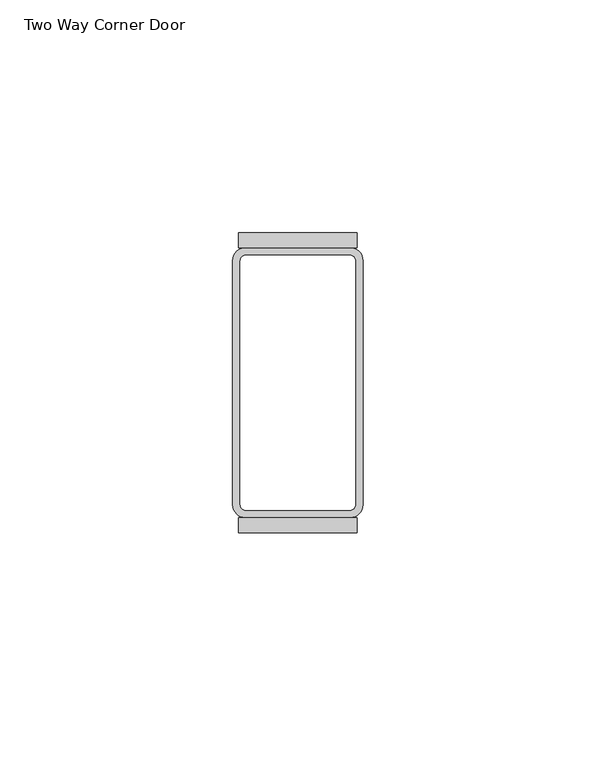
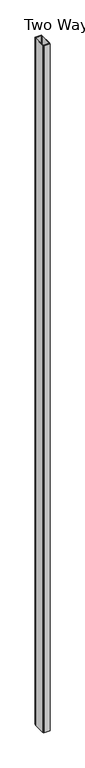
"""IFC4 building model written with IfcOpenShell, lengths in millimetres: proxy geometry, Connection-Corner-Teknion-OptosLP-Two_Way_FZCA1 : Two Way Corner Door."""

from ifc_helpers import new_model, si_unit, frame, origin, origin_with_axes, place, context, project, spatial, polyline, circle_curve, outline, extrude, source, transform, mapped, element, save
from ifc_brep_helpers import plane_surface, cylinder_surface, revolved_surface, advanced_brep


def two_way_corner_door_7322761b(model_context):
    return source(origin(), model_context, "Body", "SolidModel", [
        extrude(outline(polyline([(12.7046009, 28.9941), (-12.6953999, 28.9941), (-12.6953999, 32.1690992), (12.7046009, 32.1690992), (12.7046009, 28.9941)])), origin_with_axes(), (0.0, 0.0, 1.0), 3048.0),
        extrude(outline(polyline([(12.7046009, -28.9941), (12.7046009, -32.1945002), (-12.6953999, -32.1945002), (-12.6953999, -28.9941), (12.7046009, -28.9941)])), origin_with_axes(), (0.0, 0.0, 1.0), 3048.0),
        advanced_brep(
        [(11.2013993, 28.9941, 3048.0), (-11.2013993, 28.9941, 3048.0), (-13.9954, 26.2000993, 3048.0), (-13.9954, -26.2000993, 3048.0), (-11.2013993, -28.9941, 3048.0), (11.2013993, -28.9941, 3048.0), (13.9954, -26.2000993, 3048.0), (14.004601, 26.2001004, 3048.0), (11.2013993, 27.3685, 3048.0), (12.3698, 26.2000993, 3048.0), (12.379001, -26.2000993, 3048.0), (11.2013993, -27.3685, 3048.0), (-11.2013993, -27.3685, 3048.0), (-12.3698, -26.2000993, 3048.0), (-12.3698, 26.2000993, 3048.0), (-11.2013993, 27.3685, 3048.0), (11.2013993, 28.9941, 0.0), (13.9954, 26.2000993, 0.0), (14.004601, -26.2000993, 0.0), (11.2013993, -28.9941, 0.0), (-11.2013993, -28.9941, 0.0), (-13.9954, -26.2000993, 0.0), (-13.9954, 26.2000993, 0.0), (-11.2013993, 28.9941, 0.0), (11.2013993, 27.3685, 0.0), (-11.2013993, 27.3685, 0.0), (-12.3698, 26.2000993, 0.0), (-12.3698, -26.2000993, 0.0), (-11.2013993, -27.3685, 0.0), (11.2013993, -27.3685, 0.0), (12.3698, -26.2000993, 0.0), (12.379001, 26.2001004, 0.0)],
        [
            (0, 1),
            (1, 2, circle_curve(frame((-11.2013993, 26.2000993, 3048.0), z_axis=(0.0, 0.0, 1.0), x_axis=(0.0, -1.0, 0.0)), 2.7940007)),
            (2, 3),
            (3, 4, circle_curve(frame((-11.2013993, -26.2000993, 3048.0), z_axis=(0.0, 0.0, 1.0), x_axis=(0.0, -1.0, 0.0)), 2.7940007)),
            (4, 5),
            (5, 6, circle_curve(frame((11.2013993, -26.2000993, 3048.0), z_axis=(0.0, 0.0, 1.0), x_axis=(0.0, -1.0, 0.0)), 2.7940007)),
            (6, 7),
            (7, 0, circle_curve(frame((11.2013993, 26.2000993, 3048.0), z_axis=(0.0, 0.0, 1.0), x_axis=(0.0, -1.0, 0.0)), 2.7940007)),
            (8, 9, circle_curve(frame((11.2013993, 26.2000993, 3048.0), z_axis=(0.0, 0.0, -1.0), x_axis=(0.0, -1.0, 0.0)), 1.1684007)),
            (9, 10),
            (10, 11, circle_curve(frame((11.2013993, -26.2000993, 3048.0), z_axis=(0.0, 0.0, -1.0), x_axis=(0.0, -1.0, 0.0)), 1.1684007)),
            (11, 12),
            (12, 13, circle_curve(frame((-11.2013993, -26.2000993, 3048.0), z_axis=(0.0, 0.0, -1.0), x_axis=(0.0, -1.0, 0.0)), 1.1684007)),
            (13, 14),
            (14, 15, circle_curve(frame((-11.2013993, 26.2000993, 3048.0), z_axis=(0.0, 0.0, -1.0), x_axis=(0.0, -1.0, 0.0)), 1.1684007)),
            (15, 8),
            (16, 17, circle_curve(frame((11.2013993, 26.2000993, 0.0), z_axis=(0.0, 0.0, -1.0), x_axis=(0.0, -1.0, 0.0)), 2.7940007)),
            (17, 18),
            (18, 19, circle_curve(frame((11.2013993, -26.2000993, 0.0), z_axis=(0.0, 0.0, -1.0), x_axis=(0.0, -1.0, 0.0)), 2.7940007)),
            (19, 20),
            (20, 21, circle_curve(frame((-11.2013993, -26.2000993, 0.0), z_axis=(0.0, 0.0, -1.0), x_axis=(0.0, -1.0, 0.0)), 2.7940007)),
            (21, 22),
            (22, 23, circle_curve(frame((-11.2013993, 26.2000993, 0.0), z_axis=(0.0, 0.0, -1.0), x_axis=(0.0, -1.0, 0.0)), 2.7940007)),
            (23, 16),
            (24, 25),
            (25, 26, circle_curve(frame((-11.2013993, 26.2000993, 0.0), z_axis=(0.0, 0.0, 1.0), x_axis=(0.0, -1.0, 0.0)), 1.1684007)),
            (26, 27),
            (27, 28, circle_curve(frame((-11.2013993, -26.2000993, 0.0), z_axis=(0.0, 0.0, 1.0), x_axis=(0.0, -1.0, 0.0)), 1.1684007)),
            (28, 29),
            (29, 30, circle_curve(frame((11.2013993, -26.2000993, 0.0), z_axis=(0.0, 0.0, 1.0), x_axis=(0.0, -1.0, 0.0)), 1.1684007)),
            (30, 31),
            (31, 24, circle_curve(frame((11.2013993, 26.2000993, 0.0), z_axis=(0.0, 0.0, 1.0), x_axis=(0.0, -1.0, 0.0)), 1.1684007)),
            (0, 16),
            (23, 1),
            (22, 2),
            (21, 3),
            (20, 4),
            (19, 5),
            (18, 6),
            (17, 7),
            (8, 24),
            (31, 9),
            (30, 10),
            (29, 11),
            (28, 12),
            (27, 13),
            (26, 14),
            (25, 15),
        ],
        [
            plane_surface(frame((0.0, 0.0, 3048.0), z_axis=(0.0, 0.0, 1.0), x_axis=(0.0, -1.0, 0.0))),
            plane_surface(frame((0.0, 0.0, 0.0), z_axis=(0.0, 0.0, -1.0), x_axis=(0.0, -1.0, 0.0))),
            plane_surface(frame((11.2013993, 28.9941, 3048.0), z_axis=(0.0, 1.0, 0.0), x_axis=(0.0, 0.0, -1.0))),
            cylinder_surface(frame((-11.2013993, 26.2000993, 3048.0), z_axis=(0.0, 0.0, 1.0), x_axis=(0.0, -1.0, 0.0)), 2.7940007),
            plane_surface(frame((-13.9954, 26.2000993, 3048.0), z_axis=(-1.0, 0.0, 0.0), x_axis=(0.0, 0.0, -1.0))),
            cylinder_surface(frame((-11.2013993, -26.2000993, 3048.0), z_axis=(0.0, 0.0, 1.0), x_axis=(0.0, -1.0, 0.0)), 2.7940007),
            plane_surface(frame((-11.2013993, -28.9941, 3048.0), z_axis=(0.0, -1.0, 0.0), x_axis=(0.0, 0.0, -1.0))),
            cylinder_surface(frame((11.2013993, -26.2000993, 3048.0), z_axis=(0.0, 0.0, 1.0), x_axis=(0.0, -1.0, 0.0)), 2.7940007),
            plane_surface(frame((14.004601, -26.2000993, 3048.0), z_axis=(1.0, 0.0, 0.0), x_axis=(0.0, 0.0, -1.0))),
            cylinder_surface(frame((11.2013993, 26.2000993, 3048.0), z_axis=(0.0, 0.0, 1.0), x_axis=(0.0, -1.0, 0.0)), 2.7940007),
            revolved_surface(polyline([(11.2013993, 25.031698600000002, 0.0), (11.2013993, 25.031698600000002, 3048.0)]), (11.2013993, 26.2000993, 3048.0), (0.0, 0.0, -1.0)),
            plane_surface(frame((12.379001, 26.2001004, 3048.0), z_axis=(-1.0, 0.0, 0.0), x_axis=(0.0, 0.0, -1.0))),
            revolved_surface(polyline([(11.2013993, -27.3685, 0.0), (11.2013993, -27.3685, 3048.0)]), (11.2013993, -26.2000993, 3048.0), (0.0, 0.0, -1.0)),
            plane_surface(frame((11.2013993, -27.3685, 3048.0), z_axis=(0.0, 1.0, 0.0), x_axis=(0.0, 0.0, -1.0))),
            revolved_surface(polyline([(-11.2013993, -27.3685, 0.0), (-11.2013993, -27.3685, 3048.0)]), (-11.2013993, -26.2000993, 3048.0), (0.0, 0.0, -1.0)),
            plane_surface(frame((-12.3698, -26.2000993, 3048.0), z_axis=(1.0, 0.0, 0.0), x_axis=(0.0, 0.0, -1.0))),
            revolved_surface(polyline([(-11.2013993, 25.031698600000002, 0.0), (-11.2013993, 25.031698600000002, 3048.0)]), (-11.2013993, 26.2000993, 3048.0), (0.0, 0.0, -1.0)),
            plane_surface(frame((-11.2013993, 27.3685, 3048.0), z_axis=(0.0, -1.0, 0.0), x_axis=(0.0, 0.0, -1.0))),
        ],
        [
            (0, [[1, 2, 3, 4, 5, 6, 7, 8], [9, 10, 11, 12, 13, 14, 15, 16]]),
            (1, [[17, 18, 19, 20, 21, 22, 23, 24], [25, 26, 27, 28, 29, 30, 31, 32]]),
            (2, [[-1, 33, -24, 34]]),
            (3, [[-2, -34, -23, 35]]),
            (4, [[-3, -35, -22, 36]]),
            (5, [[-4, -36, -21, 37]]),
            (6, [[-5, -37, -20, 38]]),
            (7, [[-6, -38, -19, 39]]),
            (8, [[-7, -39, -18, 40]]),
            (9, [[-8, -40, -17, -33]]),
            (10, [[-9, 41, -32, 42]]),
            (11, [[-10, -42, -31, 43]]),
            (12, [[-11, -43, -30, 44]]),
            (13, [[-12, -44, -29, 45]]),
            (14, [[-13, -45, -28, 46]]),
            (15, [[-14, -46, -27, 47]]),
            (16, [[-15, -47, -26, 48]]),
            (17, [[-16, -48, -25, -41]]),
        ],
    ),
    ])


if __name__ == "__main__":
    model = new_model("IFC4")
    model_context = context("Model", 3, world=origin())
    ifc_project = project(units=[si_unit("LENGTHUNIT", "METRE", prefix="MILLI")], contexts=[model_context])
    site = spatial("IfcSite", under=ifc_project)
    building = spatial("IfcBuilding", under=site)
    placement = place(None, origin())
    two_way_corner_door_shape = two_way_corner_door_7322761b(model_context)
    element("IfcBuildingElementProxy", 1, Name="Connection-Corner-Teknion-OptosLP-Two_Way_FZCA1 : Two Way Corner Door", ObjectType="Connection-Corner-Teknion-OptosLP-Two_Way_FZCA1 : Two Way Corner Door", at=placement, inside=building, context=model_context, shape_type="MappedRepresentation", body=[
        mapped(two_way_corner_door_shape, transform((0.0, 0.0, 0.0), x_axis=(1.0, 0.0, 0.0), y_axis=(0.0, 1.0, 0.0), z_axis=(0.0, 0.0, 1.0))),
    ])
    save(model, "model.ifc")
